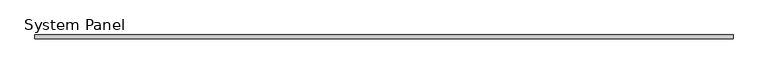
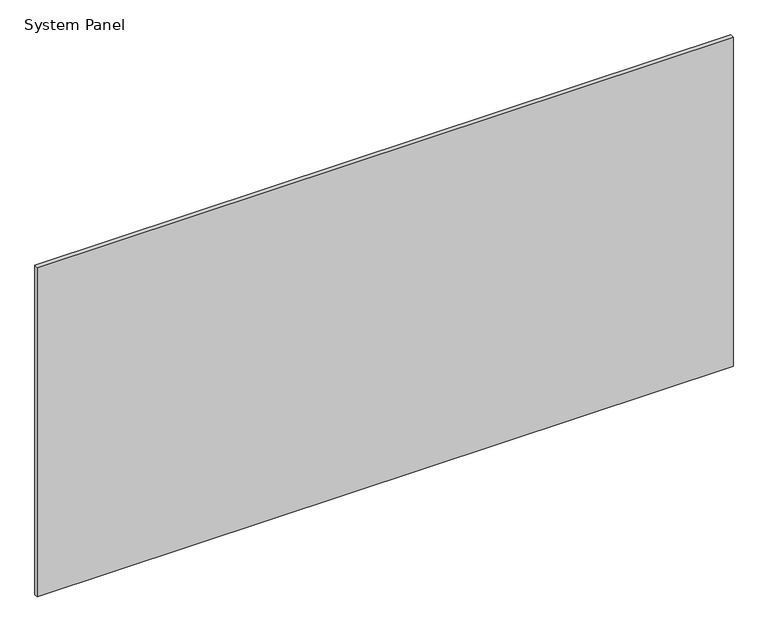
"""IFC4 building model written with IfcOpenShell, lengths in millimetres: plate geometry, System Panel : MALLA ACMA."""

from ifc_helpers import new_model, si_unit, origin, origin_with_axes, place, context, project, spatial, polyline, outline, extrude, source, transform, mapped, element, save


def system_panel_3fd6c7ae(model_context):
    return source(origin(), model_context, "Body", "SweptSolid", [
        extrude(outline(polyline([(920.0, -5.0), (-920.0, -5.0), (-920.0, 5.0), (920.0, 5.0), (920.0, -5.0)])), origin_with_axes(), (0.0, 0.0, 1.0), 920.0),
    ])


if __name__ == "__main__":
    model = new_model("IFC4")
    model_context = context("Model", 3, world=origin())
    ifc_project = project(units=[si_unit("LENGTHUNIT", "METRE", prefix="MILLI")], contexts=[model_context])
    site = spatial("IfcSite", under=ifc_project)
    building = spatial("IfcBuilding", under=site)
    placement = place(None, origin())
    system_panel_shape = system_panel_3fd6c7ae(model_context)
    element("IfcPlate", 1, ObjectType="System Panel : MALLA ACMA", at=placement, inside=building, context=model_context, shape_type="MappedRepresentation", body=[
        mapped(system_panel_shape, transform((0.0, 0.0, 0.0), x_axis=(1.0, 0.0, 0.0), y_axis=(0.0, 1.0, 0.0), z_axis=(0.0, 0.0, 1.0))),
    ])
    save(model, "model.ifc")
